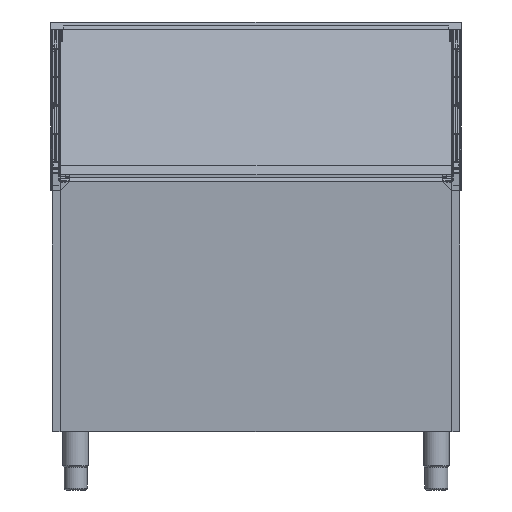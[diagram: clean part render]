
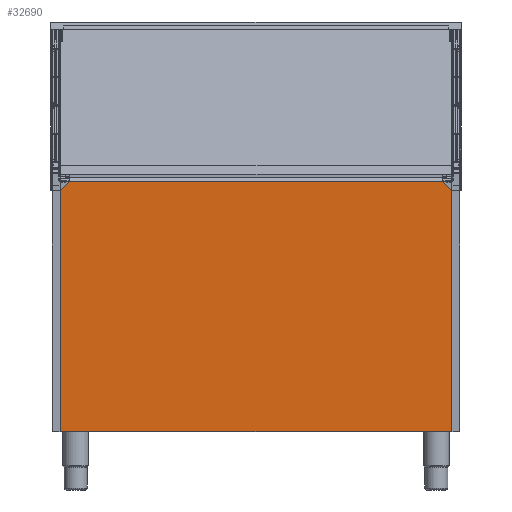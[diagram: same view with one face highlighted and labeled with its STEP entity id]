
A CAD part, front view. The second image highlights one B-rep face of the part: STEP entity #32690.
In plain terms, the highlighted planar face has unit normal (0, -0.999, -0.052) as drawn and (0, -1, 0) by its records, which use the part's own axes.
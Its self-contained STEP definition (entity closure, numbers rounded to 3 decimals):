
#11917=ORIENTED_EDGE('',*,*,#16845,.F.);
#11918=ORIENTED_EDGE('',*,*,#16840,.F.);
#11919=ORIENTED_EDGE('',*,*,#16668,.F.);
#11920=ORIENTED_EDGE('',*,*,#16833,.F.);
#11921=ORIENTED_EDGE('',*,*,#16821,.F.);
#11922=ORIENTED_EDGE('',*,*,#16839,.F.);
#11923=ORIENTED_EDGE('',*,*,#16846,.F.);
#11924=ORIENTED_EDGE('',*,*,#16807,.T.);
#16668=EDGE_CURVE('',#19718,#19719,#22591,.T.);
#16807=EDGE_CURVE('',#19838,#19837,#22693,.T.);
#16821=EDGE_CURVE('',#19851,#19852,#22702,.T.);
#16833=EDGE_CURVE('',#19852,#19718,#22712,.T.);
#16839=EDGE_CURVE('',#19857,#19851,#22716,.T.);
#16840=EDGE_CURVE('',#19719,#19858,#22717,.T.);
#16845=EDGE_CURVE('',#19858,#19837,#22720,.T.);
#16846=EDGE_CURVE('',#19838,#19857,#22721,.T.);
#19718=VERTEX_POINT('',#59197);
#19719=VERTEX_POINT('',#59199);
#19837=VERTEX_POINT('',#59477);
#19838=VERTEX_POINT('',#59479);
#19851=VERTEX_POINT('',#59506);
#19852=VERTEX_POINT('',#59508);
#19857=VERTEX_POINT('',#59539);
#19858=VERTEX_POINT('',#59543);
#22591=LINE('',#59198,#25502);
#22693=LINE('',#59478,#25604);
#22702=LINE('',#59507,#25613);
#22712=LINE('',#59529,#25623);
#22716=LINE('',#59540,#25627);
#22717=LINE('',#59542,#25628);
#22720=LINE('',#59550,#25631);
#22721=LINE('',#59551,#25632);
#25502=VECTOR('',#44745,1000.);
#25604=VECTOR('',#44965,1000.);
#25613=VECTOR('',#44986,1000.);
#25623=VECTOR('',#45014,1000.);
#25627=VECTOR('',#45026,1000.);
#25628=VECTOR('',#45029,1000.);
#25631=VECTOR('',#45038,1000.);
#25632=VECTOR('',#45039,1000.);
#27806=EDGE_LOOP('',(#11917,#11918,#11919,#11920,#11921,#11922,#11923,#11924));
#29970=FACE_BOUND('',#27806,.T.);
#30858=PLANE('',#36012);
#32690=ADVANCED_FACE('',(#29970),#30858,.T.);
#36012=AXIS2_PLACEMENT_3D('',#59549,#45036,#45037);
#44745=DIRECTION('',(0.,0.,-1.));
#44965=DIRECTION('',(1.,0.,0.));
#44986=DIRECTION('',(0.,0.,1.));
#45014=DIRECTION('',(1.,0.,0.));
#45026=DIRECTION('',(1.,0.,0.));
#45029=DIRECTION('',(1.,0.,0.));
#45036=DIRECTION('',(0.,-1.,0.));
#45037=DIRECTION('',(0.,0.,-1.));
#45038=DIRECTION('',(0.,0.,-1.));
#45039=DIRECTION('',(0.,0.,1.));
#59197=CARTESIAN_POINT('',(499.2,-32.906,-37.001));
#59198=CARTESIAN_POINT('',(499.2,-32.906,27.613));
#59199=CARTESIAN_POINT('',(499.2,-32.906,-38.999));
#59477=CARTESIAN_POINT('',(511.298,-32.906,-691.698));
#59478=CARTESIAN_POINT('',(-511.3,-32.906,-691.698));
#59479=CARTESIAN_POINT('',(-511.298,-32.906,-691.698));
#59506=CARTESIAN_POINT('',(-499.2,-32.906,-38.999));
#59507=CARTESIAN_POINT('',(-499.2,-32.906,-38.999));
#59508=CARTESIAN_POINT('',(-499.2,-32.906,-37.001));
#59529=CARTESIAN_POINT('',(-511.3,-32.906,-37.001));
#59539=CARTESIAN_POINT('',(-511.298,-32.906,-38.999));
#59540=CARTESIAN_POINT('',(-511.3,-32.906,-38.999));
#59542=CARTESIAN_POINT('',(499.2,-32.906,-38.999));
#59543=CARTESIAN_POINT('',(511.298,-32.906,-38.999));
#59549=CARTESIAN_POINT('',(-511.3,-32.906,-691.7));
#59550=CARTESIAN_POINT('',(511.298,-32.906,-38.999));
#59551=CARTESIAN_POINT('',(-511.298,-32.906,-691.698));
